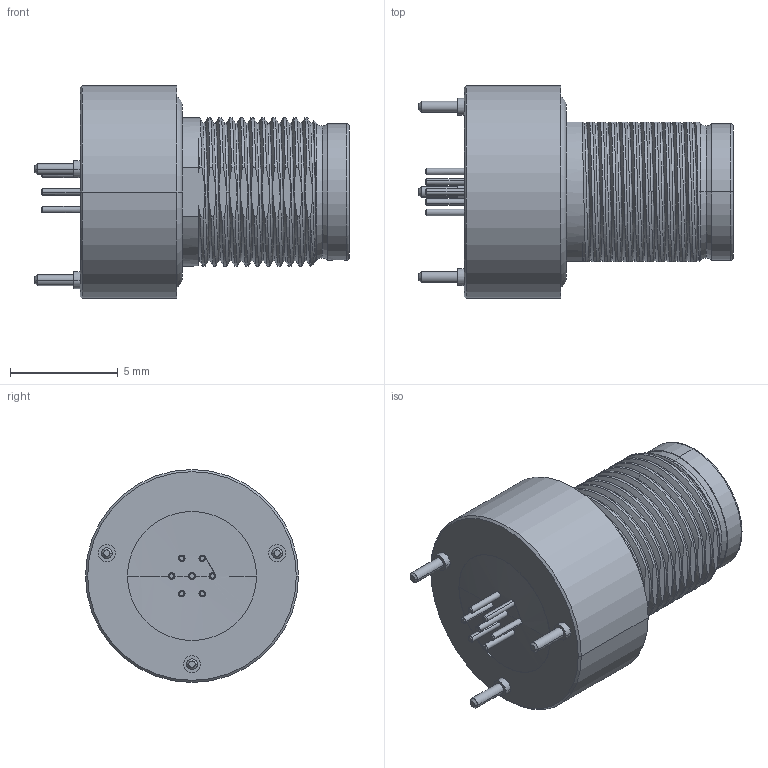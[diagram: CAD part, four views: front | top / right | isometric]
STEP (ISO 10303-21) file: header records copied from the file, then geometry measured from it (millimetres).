
FILE_DESCRIPTION((''),'2;1');
FILE_NAME('00058453-B_ASM','2020-10-29T14:41:33',('EUnterhaslberger'),(''),'CREO PARAMETRIC BY PTC INC, 2018300','CREO PARAMETRIC BY PTC INC, 2018300','');
FILE_SCHEMA(('AP242_MANAGED_MODEL_BASED_3D_ENGINEERING_MIM_LF { 1 0 10303 442 1 1 4 }'));
Length unit declared in the file: millimetre
Products named in the file (4): TEMP_SW_STEP_MONOBLOCK_1_1; TEMP_SW_STEP_MONOBLOCK_1_2; TEMP_SW_STEP_MONOBLOCK_1_ASM; 00058453-B_ASM
Assembly tree (3 placements, depth 3):
  00058453-B_ASM
    TEMP_SW_STEP_MONOBLOCK_1_ASM
      TEMP_SW_STEP_MONOBLOCK_1_1
      TEMP_SW_STEP_MONOBLOCK_1_2
Bounding box: 14.6 x 9.9 x 9.9 mm (x, y, z)
Volume: 497.7 mm3; surface area: 828.6 mm2
Topology: 2 solids, 2 shells, 318 faces, 803 edges, 525 vertices
Faces by surface type: plane 123, cylinder 111, cone 48, torus 21, bspline 13, sphere 2
Entity records: 20163 total; most frequent: CARTESIAN_POINT 10120, DIRECTION 1606, ORIENTED_EDGE 1602, EDGE_CURVE 801, AXIS2_PLACEMENT_3D 650, VERTEX_POINT 525, EDGE_LOOP 358, CIRCLE 336
